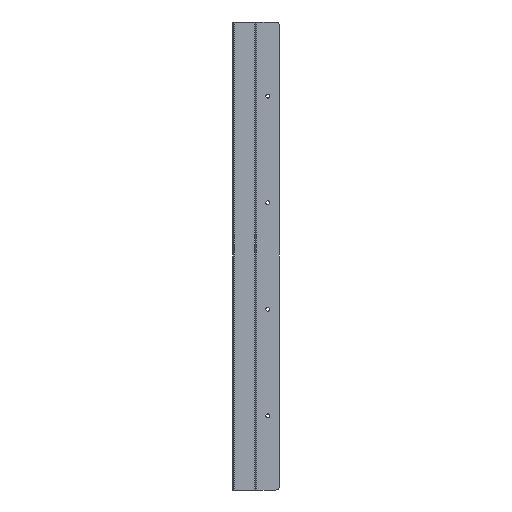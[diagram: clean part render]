
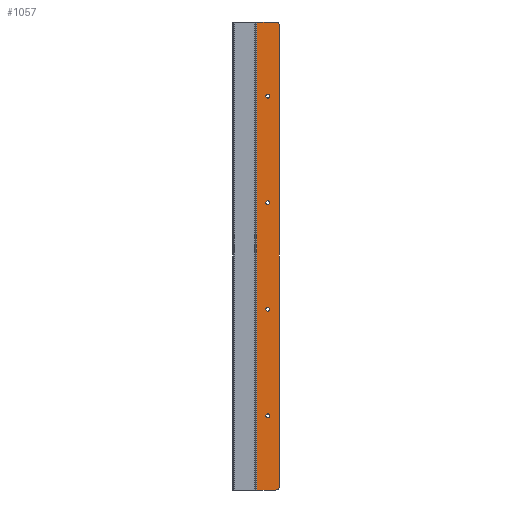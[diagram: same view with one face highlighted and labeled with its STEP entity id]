
A CAD part, front view. The second image highlights one B-rep face of the part: STEP entity #1057.
In plain terms, the highlighted planar face has unit normal (0, -1, 0).
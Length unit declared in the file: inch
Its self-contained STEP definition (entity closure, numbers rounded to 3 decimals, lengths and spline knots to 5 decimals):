
#211=DIRECTION('',(0.,0.,1.));
#212=VECTOR('',#211,30.);
#213=CARTESIAN_POINT('',(0.047,-0.548,-15.));
#214=LINE('',#213,#212);
#258=DIRECTION('',(-1.,0.,0.));
#259=VECTOR('',#258,1.203);
#260=CARTESIAN_POINT('',(1.25,-0.548,-15.));
#261=LINE('',#260,#259);
#324=CARTESIAN_POINT('',(1.25,-0.548,14.75));
#325=DIRECTION('',(0.,-1.,0.));
#326=DIRECTION('',(1.,0.,0.));
#327=AXIS2_PLACEMENT_3D('',#324,#325,#326);
#329=DIRECTION('',(0.,0.,1.));
#330=VECTOR('',#329,29.5);
#331=CARTESIAN_POINT('',(1.5,-0.548,-14.75));
#332=LINE('',#331,#330);
#333=CARTESIAN_POINT('',(1.25,-0.548,-14.75));
#334=DIRECTION('',(0.,-1.,0.));
#335=DIRECTION('',(0.,0.,-1.));
#336=AXIS2_PLACEMENT_3D('',#333,#334,#335);
#338=CARTESIAN_POINT('',(0.75,-0.548,-10.25));
#339=DIRECTION('',(0.,1.,0.));
#340=DIRECTION('',(0.,0.,-1.));
#341=AXIS2_PLACEMENT_3D('',#338,#339,#340);
#343=CARTESIAN_POINT('',(0.75,-0.548,-10.25));
#344=DIRECTION('',(0.,1.,0.));
#345=DIRECTION('',(0.,0.,1.));
#346=AXIS2_PLACEMENT_3D('',#343,#344,#345);
#348=CARTESIAN_POINT('',(0.75,-0.548,-3.41667));
#349=DIRECTION('',(0.,1.,0.));
#350=DIRECTION('',(0.,0.,-1.));
#351=AXIS2_PLACEMENT_3D('',#348,#349,#350);
#353=CARTESIAN_POINT('',(0.75,-0.548,-3.41667));
#354=DIRECTION('',(0.,1.,0.));
#355=DIRECTION('',(0.,0.,1.));
#356=AXIS2_PLACEMENT_3D('',#353,#354,#355);
#358=CARTESIAN_POINT('',(0.75,-0.548,3.41667));
#359=DIRECTION('',(0.,1.,0.));
#360=DIRECTION('',(0.,0.,-1.));
#361=AXIS2_PLACEMENT_3D('',#358,#359,#360);
#363=CARTESIAN_POINT('',(0.75,-0.548,3.41667));
#364=DIRECTION('',(0.,1.,0.));
#365=DIRECTION('',(0.,0.,1.));
#366=AXIS2_PLACEMENT_3D('',#363,#364,#365);
#368=CARTESIAN_POINT('',(0.75,-0.548,10.25));
#369=DIRECTION('',(0.,1.,0.));
#370=DIRECTION('',(0.,0.,-1.));
#371=AXIS2_PLACEMENT_3D('',#368,#369,#370);
#373=CARTESIAN_POINT('',(0.75,-0.548,10.25));
#374=DIRECTION('',(0.,1.,0.));
#375=DIRECTION('',(0.,0.,1.));
#376=AXIS2_PLACEMENT_3D('',#373,#374,#375);
#382=DIRECTION('',(-1.,0.,0.));
#383=VECTOR('',#382,1.203);
#384=CARTESIAN_POINT('',(1.25,-0.548,15.));
#385=LINE('',#384,#383);
#478=CARTESIAN_POINT('',(0.047,-0.548,-15.));
#479=CARTESIAN_POINT('',(0.047,-0.548,15.));
#480=VERTEX_POINT('',#478);
#481=VERTEX_POINT('',#479);
#494=CARTESIAN_POINT('',(1.5,-0.548,14.75));
#495=VERTEX_POINT('',#494);
#496=CARTESIAN_POINT('',(1.25,-0.548,15.));
#497=VERTEX_POINT('',#496);
#510=CARTESIAN_POINT('',(1.25,-0.548,-15.));
#511=VERTEX_POINT('',#510);
#512=CARTESIAN_POINT('',(1.5,-0.548,-14.75));
#513=VERTEX_POINT('',#512);
#518=CARTESIAN_POINT('',(0.75,-0.548,-10.375));
#519=CARTESIAN_POINT('',(0.75,-0.548,-10.125));
#520=VERTEX_POINT('',#518);
#521=VERTEX_POINT('',#519);
#526=CARTESIAN_POINT('',(0.75,-0.548,-3.54167));
#527=CARTESIAN_POINT('',(0.75,-0.548,-3.29167));
#528=VERTEX_POINT('',#526);
#529=VERTEX_POINT('',#527);
#534=CARTESIAN_POINT('',(0.75,-0.548,3.29167));
#535=CARTESIAN_POINT('',(0.75,-0.548,3.54167));
#536=VERTEX_POINT('',#534);
#537=VERTEX_POINT('',#535);
#542=CARTESIAN_POINT('',(0.75,-0.548,10.125));
#543=CARTESIAN_POINT('',(0.75,-0.548,10.375));
#544=VERTEX_POINT('',#542);
#545=VERTEX_POINT('',#543);
#1019=CARTESIAN_POINT('',(1.5,-0.548,-15.));
#1020=DIRECTION('',(0.,1.,0.));
#1021=DIRECTION('',(-1.,0.,0.));
#1022=AXIS2_PLACEMENT_3D('',#1019,#1020,#1021);
#1023=PLANE('',#1022);
#1024=ORIENTED_EDGE('',*,*,#999,.F.);
#1025=ORIENTED_EDGE('',*,*,#1014,.F.);
#1026=ORIENTED_EDGE('',*,*,#943,.F.);
#1027=ORIENTED_EDGE('',*,*,#930,.T.);
#1028=ORIENTED_EDGE('',*,*,#872,.T.);
#1030=ORIENTED_EDGE('',*,*,#1029,.F.);
#1031=EDGE_LOOP('',(#1024,#1025,#1026,#1027,#1028,#1030));
#1032=FACE_OUTER_BOUND('',#1031,.F.);
#1034=ORIENTED_EDGE('',*,*,#1033,.F.);
#1036=ORIENTED_EDGE('',*,*,#1035,.F.);
#1037=EDGE_LOOP('',(#1034,#1036));
#1038=FACE_BOUND('',#1037,.F.);
#1040=ORIENTED_EDGE('',*,*,#1039,.F.);
#1042=ORIENTED_EDGE('',*,*,#1041,.F.);
#1043=EDGE_LOOP('',(#1040,#1042));
#1044=FACE_BOUND('',#1043,.F.);
#1046=ORIENTED_EDGE('',*,*,#1045,.F.);
#1048=ORIENTED_EDGE('',*,*,#1047,.F.);
#1049=EDGE_LOOP('',(#1046,#1048));
#1050=FACE_BOUND('',#1049,.F.);
#1052=ORIENTED_EDGE('',*,*,#1051,.F.);
#1054=ORIENTED_EDGE('',*,*,#1053,.F.);
#1055=EDGE_LOOP('',(#1052,#1054));
#1056=FACE_BOUND('',#1055,.F.);
#328=CIRCLE('',#327,0.25);
#337=CIRCLE('',#336,0.25);
#342=CIRCLE('',#341,0.125);
#347=CIRCLE('',#346,0.125);
#352=CIRCLE('',#351,0.125);
#357=CIRCLE('',#356,0.125);
#362=CIRCLE('',#361,0.125);
#367=CIRCLE('',#366,0.125);
#372=CIRCLE('',#371,0.125);
#377=CIRCLE('',#376,0.125);
#872=EDGE_CURVE('',#480,#481,#214,.T.);
#930=EDGE_CURVE('',#511,#480,#261,.T.);
#943=EDGE_CURVE('',#511,#513,#337,.T.);
#999=EDGE_CURVE('',#495,#497,#328,.T.);
#1014=EDGE_CURVE('',#513,#495,#332,.T.);
#1029=EDGE_CURVE('',#497,#481,#385,.T.);
#1033=EDGE_CURVE('',#520,#521,#342,.T.);
#1035=EDGE_CURVE('',#521,#520,#347,.T.);
#1039=EDGE_CURVE('',#528,#529,#352,.T.);
#1041=EDGE_CURVE('',#529,#528,#357,.T.);
#1045=EDGE_CURVE('',#536,#537,#362,.T.);
#1047=EDGE_CURVE('',#537,#536,#367,.T.);
#1051=EDGE_CURVE('',#544,#545,#372,.T.);
#1053=EDGE_CURVE('',#545,#544,#377,.T.);
#1057=ADVANCED_FACE('',(#1032,#1038,#1044,#1050,#1056),#1023,.F.);
